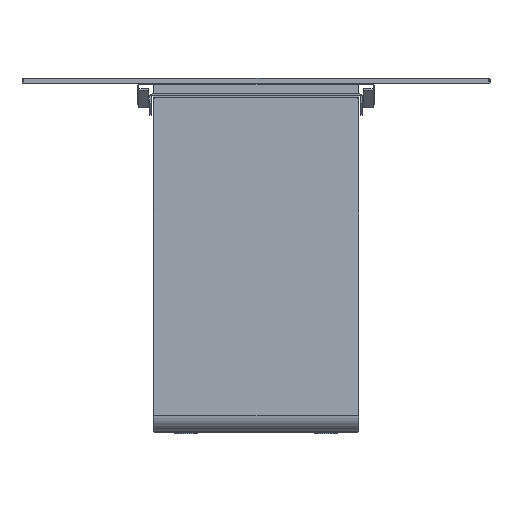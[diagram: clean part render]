
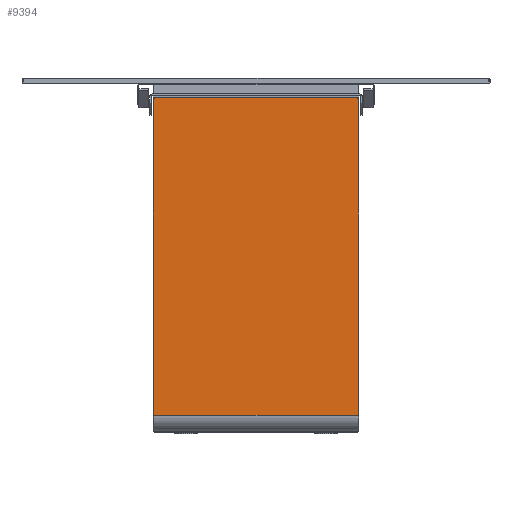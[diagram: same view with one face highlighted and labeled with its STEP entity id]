
A CAD part, left-side view. The second image highlights one B-rep face of the part: STEP entity #9394.
In plain terms, the highlighted planar face has unit normal (-1, 0, 0).
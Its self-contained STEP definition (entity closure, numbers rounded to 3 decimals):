
#8676=CARTESIAN_POINT('',(-560.,214.,-3.5));
#8677=VERTEX_POINT('',#8676);
#8684=CARTESIAN_POINT('',(-560.,-214.,-3.5));
#8685=VERTEX_POINT('',#8684);
#8686=CARTESIAN_POINT('',(-560.,214.,-3.5));
#8687=DIRECTION('',(0.0,-1.0,0.0));
#8688=VECTOR('',#8687,428.);
#8689=LINE('',#8686,#8688);
#8690=EDGE_CURVE('',#8677,#8685,#8689,.T.);
#8707=CARTESIAN_POINT('',(-560.,-219.,-8.5));
#8708=VERTEX_POINT('',#8707);
#8725=CARTESIAN_POINT('',(-560.,-214.,-8.5));
#8726=DIRECTION('',(1.0,0.,0.));
#8727=DIRECTION('',(0.,-0.707,0.707));
#8728=AXIS2_PLACEMENT_3D('',#8725,#8726,#8727);
#8729=CIRCLE('',#8728,5.);
#8730=EDGE_CURVE('',#8685,#8708,#8729,.T.);
#8740=CARTESIAN_POINT('',(-560.,-219.,-682.5));
#8741=VERTEX_POINT('',#8740);
#8757=CARTESIAN_POINT('',(-560.,-219.,-8.5));
#8758=DIRECTION('',(0.0,0.0,-1.0));
#8759=VECTOR('',#8758,674.);
#8760=LINE('',#8757,#8759);
#8761=EDGE_CURVE('',#8708,#8741,#8760,.T.);
#9074=CARTESIAN_POINT('',(-560.,219.,-682.5));
#9075=VERTEX_POINT('',#9074);
#9106=CARTESIAN_POINT('',(-560.,219.,-8.5));
#9107=VERTEX_POINT('',#9106);
#9123=CARTESIAN_POINT('',(-560.,219.,-682.5));
#9124=DIRECTION('',(0.0,0.0,1.0));
#9125=VECTOR('',#9124,674.);
#9126=LINE('',#9123,#9125);
#9127=EDGE_CURVE('',#9075,#9107,#9126,.T.);
#9146=CARTESIAN_POINT('',(-560.,214.,-8.5));
#9147=DIRECTION('',(1.0,0.,0.));
#9148=DIRECTION('',(0.,0.707,0.707));
#9149=AXIS2_PLACEMENT_3D('',#9146,#9147,#9148);
#9150=CIRCLE('',#9149,5.);
#9151=EDGE_CURVE('',#9107,#8677,#9150,.T.);
#9368=CARTESIAN_POINT('',(-560.,219.,-682.5));
#9369=DIRECTION('',(0.0,-1.0,0.0));
#9370=VECTOR('',#9369,438.);
#9371=LINE('',#9368,#9370);
#9372=EDGE_CURVE('',#9075,#8741,#9371,.T.);
#9381=CARTESIAN_POINT('',(-560.,0.,-361.632));
#9382=DIRECTION('',(1.0,0.0,0.0));
#9383=DIRECTION('',(0.0,0.0,-1.0));
#9384=AXIS2_PLACEMENT_3D('',#9381,#9382,#9383);
#9385=PLANE('',#9384);
#9386=ORIENTED_EDGE('',*,*,#8761,.F.);
#9387=ORIENTED_EDGE('',*,*,#8730,.F.);
#9388=ORIENTED_EDGE('',*,*,#8690,.F.);
#9389=ORIENTED_EDGE('',*,*,#9151,.F.);
#9390=ORIENTED_EDGE('',*,*,#9127,.F.);
#9391=ORIENTED_EDGE('',*,*,#9372,.T.);
#9392=EDGE_LOOP('',(#9386,#9387,#9388,#9389,#9390,#9391));
#9393=FACE_OUTER_BOUND('',#9392,.T.);
#9394=ADVANCED_FACE('',(#9393),#9385,.F.);
